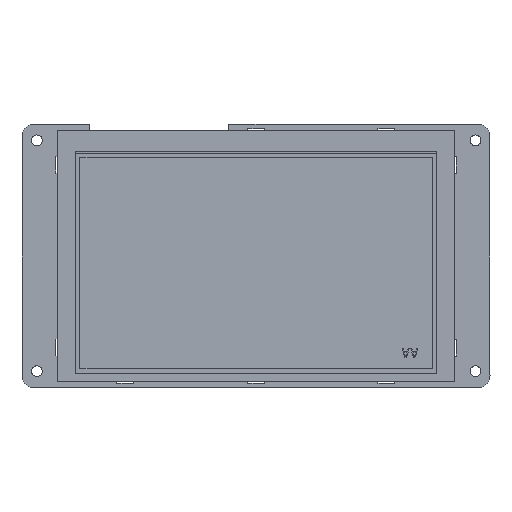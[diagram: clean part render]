
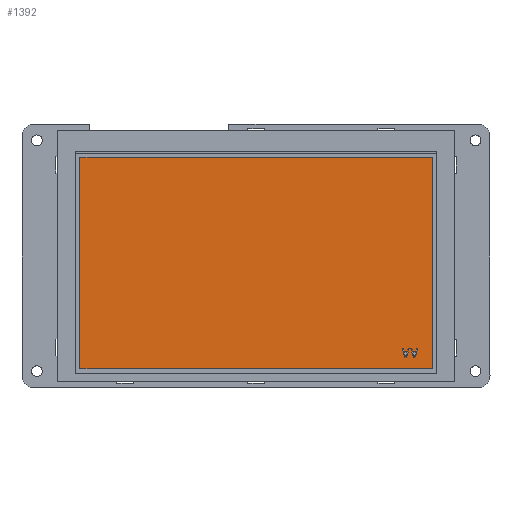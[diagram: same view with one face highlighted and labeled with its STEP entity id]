
A CAD part, front view. The second image highlights one B-rep face of the part: STEP entity #1392.
In plain terms, the highlighted planar face has unit normal (0, -1, 0) as drawn and (0, 1, 0) by its records, which use the part's own axes.
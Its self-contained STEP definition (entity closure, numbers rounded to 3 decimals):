
#616=DIRECTION('',(0.,0.,1.));
#617=VECTOR('',#616,64.8);
#618=CARTESIAN_POINT('',(-54.05,2.8,-34.54));
#619=LINE('',#618,#617);
#620=DIRECTION('',(-1.,0.,0.));
#621=VECTOR('',#620,108.);
#622=CARTESIAN_POINT('',(53.95,2.8,-34.54));
#623=LINE('',#622,#621);
#624=DIRECTION('',(0.,0.,-1.));
#625=VECTOR('',#624,64.8);
#626=CARTESIAN_POINT('',(53.95,2.8,30.26));
#627=LINE('',#626,#625);
#628=DIRECTION('',(1.,0.,0.));
#629=VECTOR('',#628,108.);
#630=CARTESIAN_POINT('',(-54.05,2.8,30.26));
#631=LINE('',#630,#629);
#632=DIRECTION('',(0.316,0.,0.949));
#633=VECTOR('',#632,2.772);
#634=CARTESIAN_POINT('',(-48.238,2.8,-31.074));
#635=LINE('',#634,#633);
#636=DIRECTION('',(1.,0.,0.));
#637=VECTOR('',#636,0.438);
#638=CARTESIAN_POINT('',(-48.676,2.8,-31.074));
#639=LINE('',#638,#637);
#640=DIRECTION('',(0.316,0.,-0.949));
#641=VECTOR('',#640,2.772);
#642=CARTESIAN_POINT('',(-49.553,2.8,-28.444));
#643=LINE('',#642,#641);
#644=DIRECTION('',(-1.,0.,0.));
#645=VECTOR('',#644,0.329);
#646=CARTESIAN_POINT('',(-49.224,2.8,-28.444));
#647=LINE('',#646,#645);
#648=DIRECTION('',(-0.31,0.,0.951));
#649=VECTOR('',#648,0.706);
#650=CARTESIAN_POINT('',(-49.005,2.8,-29.115));
#651=LINE('',#650,#649);
#652=DIRECTION('',(-1.,0.,0.));
#653=VECTOR('',#652,1.096);
#654=CARTESIAN_POINT('',(-47.909,2.8,-29.115));
#655=LINE('',#654,#653);
#656=DIRECTION('',(-0.31,0.,-0.951));
#657=VECTOR('',#656,0.706);
#658=CARTESIAN_POINT('',(-47.69,2.8,-28.444));
#659=LINE('',#658,#657);
#660=DIRECTION('',(-1.,0.,0.));
#661=VECTOR('',#660,0.329);
#662=CARTESIAN_POINT('',(-47.361,2.8,-28.444));
#663=LINE('',#662,#661);
#676=DIRECTION('',(0.316,0.,0.949));
#677=VECTOR('',#676,2.772);
#678=CARTESIAN_POINT('',(-45.608,2.8,-31.074));
#679=LINE('',#678,#677);
#680=DIRECTION('',(1.,0.,0.));
#681=VECTOR('',#680,0.438);
#682=CARTESIAN_POINT('',(-46.046,2.8,-31.074));
#683=LINE('',#682,#681);
#684=DIRECTION('',(0.316,0.,-0.949));
#685=VECTOR('',#684,2.772);
#686=CARTESIAN_POINT('',(-46.923,2.8,-28.444));
#687=LINE('',#686,#685);
#688=DIRECTION('',(-1.,0.,0.));
#689=VECTOR('',#688,0.329);
#690=CARTESIAN_POINT('',(-46.594,2.8,-28.444));
#691=LINE('',#690,#689);
#692=DIRECTION('',(-0.31,0.,0.951));
#693=VECTOR('',#692,0.706);
#694=CARTESIAN_POINT('',(-46.375,2.8,-29.115));
#695=LINE('',#694,#693);
#696=DIRECTION('',(-1.,0.,0.));
#697=VECTOR('',#696,1.096);
#698=CARTESIAN_POINT('',(-45.279,2.8,-29.115));
#699=LINE('',#698,#697);
#700=DIRECTION('',(-0.31,0.,-0.951));
#701=VECTOR('',#700,0.706);
#702=CARTESIAN_POINT('',(-45.06,2.8,-28.444));
#703=LINE('',#702,#701);
#704=DIRECTION('',(-1.,0.,0.));
#705=VECTOR('',#704,0.329);
#706=CARTESIAN_POINT('',(-44.731,2.8,-28.444));
#707=LINE('',#706,#705);
#912=CARTESIAN_POINT('',(-54.05,2.8,-34.54));
#913=CARTESIAN_POINT('',(-54.05,2.8,30.26));
#914=VERTEX_POINT('',#912);
#915=VERTEX_POINT('',#913);
#916=CARTESIAN_POINT('',(53.95,2.8,30.26));
#917=VERTEX_POINT('',#916);
#918=CARTESIAN_POINT('',(53.95,2.8,-34.54));
#919=VERTEX_POINT('',#918);
#920=CARTESIAN_POINT('',(-48.238,2.8,-31.074));
#921=CARTESIAN_POINT('',(-47.361,2.8,-28.444));
#922=VERTEX_POINT('',#920);
#923=VERTEX_POINT('',#921);
#924=CARTESIAN_POINT('',(-47.69,2.8,-28.444));
#925=VERTEX_POINT('',#924);
#926=CARTESIAN_POINT('',(-47.909,2.8,-29.115));
#927=VERTEX_POINT('',#926);
#928=CARTESIAN_POINT('',(-49.005,2.8,-29.115));
#929=VERTEX_POINT('',#928);
#930=CARTESIAN_POINT('',(-49.224,2.8,-28.444));
#931=VERTEX_POINT('',#930);
#932=CARTESIAN_POINT('',(-49.553,2.8,-28.444));
#933=VERTEX_POINT('',#932);
#934=CARTESIAN_POINT('',(-48.676,2.8,-31.074));
#935=VERTEX_POINT('',#934);
#942=CARTESIAN_POINT('',(-45.608,2.8,-31.074));
#943=CARTESIAN_POINT('',(-44.731,2.8,-28.444));
#944=VERTEX_POINT('',#942);
#945=VERTEX_POINT('',#943);
#946=CARTESIAN_POINT('',(-45.06,2.8,-28.444));
#947=VERTEX_POINT('',#946);
#948=CARTESIAN_POINT('',(-45.279,2.8,-29.115));
#949=VERTEX_POINT('',#948);
#950=CARTESIAN_POINT('',(-46.375,2.8,-29.115));
#951=VERTEX_POINT('',#950);
#952=CARTESIAN_POINT('',(-46.594,2.8,-28.444));
#953=VERTEX_POINT('',#952);
#954=CARTESIAN_POINT('',(-46.923,2.8,-28.444));
#955=VERTEX_POINT('',#954);
#956=CARTESIAN_POINT('',(-46.046,2.8,-31.074));
#957=VERTEX_POINT('',#956);
#1345=CARTESIAN_POINT('',(0.,2.8,0.));
#1346=DIRECTION('',(0.,1.,0.));
#1347=DIRECTION('',(1.,0.,0.));
#1348=AXIS2_PLACEMENT_3D('',#1345,#1346,#1347);
#1349=PLANE('',#1348);
#1350=ORIENTED_EDGE('',*,*,#1297,.F.);
#1351=ORIENTED_EDGE('',*,*,#1312,.F.);
#1352=ORIENTED_EDGE('',*,*,#1326,.F.);
#1353=ORIENTED_EDGE('',*,*,#1339,.F.);
#1354=EDGE_LOOP('',(#1350,#1351,#1352,#1353));
#1355=FACE_OUTER_BOUND('',#1354,.F.);
#1357=ORIENTED_EDGE('',*,*,#1356,.F.);
#1359=ORIENTED_EDGE('',*,*,#1358,.F.);
#1361=ORIENTED_EDGE('',*,*,#1360,.F.);
#1363=ORIENTED_EDGE('',*,*,#1362,.F.);
#1365=ORIENTED_EDGE('',*,*,#1364,.F.);
#1367=ORIENTED_EDGE('',*,*,#1366,.F.);
#1369=ORIENTED_EDGE('',*,*,#1368,.F.);
#1371=ORIENTED_EDGE('',*,*,#1370,.F.);
#1372=EDGE_LOOP('',(#1357,#1359,#1361,#1363,#1365,#1367,#1369,#1371));
#1373=FACE_BOUND('',#1372,.F.);
#1375=ORIENTED_EDGE('',*,*,#1374,.F.);
#1377=ORIENTED_EDGE('',*,*,#1376,.F.);
#1379=ORIENTED_EDGE('',*,*,#1378,.F.);
#1381=ORIENTED_EDGE('',*,*,#1380,.F.);
#1383=ORIENTED_EDGE('',*,*,#1382,.F.);
#1385=ORIENTED_EDGE('',*,*,#1384,.F.);
#1387=ORIENTED_EDGE('',*,*,#1386,.F.);
#1389=ORIENTED_EDGE('',*,*,#1388,.F.);
#1390=EDGE_LOOP('',(#1375,#1377,#1379,#1381,#1383,#1385,#1387,#1389));
#1391=FACE_BOUND('',#1390,.F.);
#1297=EDGE_CURVE('',#914,#915,#619,.T.);
#1312=EDGE_CURVE('',#919,#914,#623,.T.);
#1326=EDGE_CURVE('',#917,#919,#627,.T.);
#1339=EDGE_CURVE('',#915,#917,#631,.T.);
#1356=EDGE_CURVE('',#922,#923,#635,.T.);
#1358=EDGE_CURVE('',#935,#922,#639,.T.);
#1360=EDGE_CURVE('',#933,#935,#643,.T.);
#1362=EDGE_CURVE('',#931,#933,#647,.T.);
#1364=EDGE_CURVE('',#929,#931,#651,.T.);
#1366=EDGE_CURVE('',#927,#929,#655,.T.);
#1368=EDGE_CURVE('',#925,#927,#659,.T.);
#1370=EDGE_CURVE('',#923,#925,#663,.T.);
#1374=EDGE_CURVE('',#944,#945,#679,.T.);
#1376=EDGE_CURVE('',#957,#944,#683,.T.);
#1378=EDGE_CURVE('',#955,#957,#687,.T.);
#1380=EDGE_CURVE('',#953,#955,#691,.T.);
#1382=EDGE_CURVE('',#951,#953,#695,.T.);
#1384=EDGE_CURVE('',#949,#951,#699,.T.);
#1386=EDGE_CURVE('',#947,#949,#703,.T.);
#1388=EDGE_CURVE('',#945,#947,#707,.T.);
#1392=ADVANCED_FACE('',(#1355,#1373,#1391),#1349,.T.);
